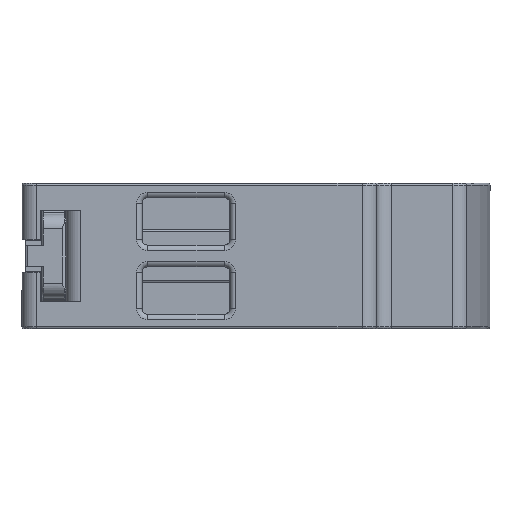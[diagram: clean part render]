
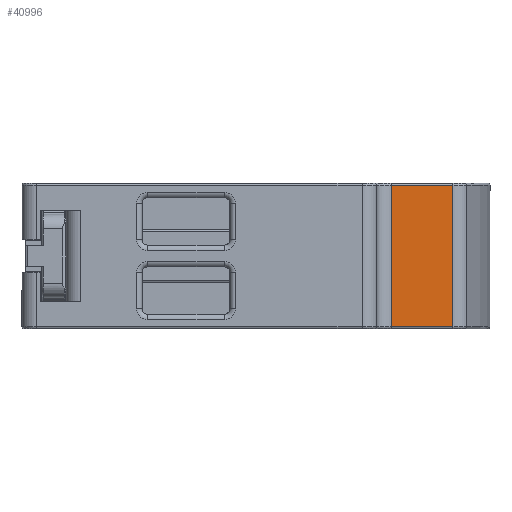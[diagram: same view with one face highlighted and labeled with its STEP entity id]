
A CAD part, front view. The second image highlights one B-rep face of the part: STEP entity #40996.
In plain terms, the highlighted planar face has unit normal (0, -1, 0).
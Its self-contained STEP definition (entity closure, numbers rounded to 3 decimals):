
#2013 = CARTESIAN_POINT ( 'NONE',  ( -63.303, -21.367, -0.3 ) ) ;
#2076 = EDGE_LOOP ( 'NONE', ( #50110, #44638, #39730, #42893 ) ) ;
#6729 = EDGE_CURVE ( 'NONE', #49858, #42859, #11788, .T. ) ;
#7410 = VECTOR ( 'NONE', #58228, 1000. ) ;
#10583 = CARTESIAN_POINT ( 'NONE',  ( -63.303, -21.367, -19.2 ) ) ;
#11788 = LINE ( 'NONE', #2013, #24431 ) ;
#15367 = CARTESIAN_POINT ( 'NONE',  ( -54.868, -21.367, -19.2 ) ) ;
#19878 = CARTESIAN_POINT ( 'NONE',  ( -54.868, -21.367, -19.6 ) ) ;
#21755 = CARTESIAN_POINT ( 'NONE',  ( -54.868, -21.367, -19.6 ) ) ;
#22003 = CARTESIAN_POINT ( 'NONE',  ( -54.868, -21.367, -0.3 ) ) ;
#22583 = VECTOR ( 'NONE', #35901, 1000. ) ;
#24431 = VECTOR ( 'NONE', #31268, 1000. ) ;
#25416 = FACE_OUTER_BOUND ( 'NONE', #2076, .T. ) ;
#31268 = DIRECTION ( 'NONE',  ( -1., 0., 0. ) ) ;
#33537 = LINE ( 'NONE', #19878, #7410 ) ;
#33739 = CARTESIAN_POINT ( 'NONE',  ( -63.303, -21.367, -0.3 ) ) ;
#35901 = DIRECTION ( 'NONE',  ( 0., 0., 1. ) ) ;
#39730 = ORIENTED_EDGE ( 'NONE', *, *, #50490, .T. ) ;
#40996 = ADVANCED_FACE ( 'NONE', ( #25416 ), #54987, .F. ) ;
#41942 = VECTOR ( 'NONE', #62123, 1000. ) ;
#42859 = VERTEX_POINT ( 'NONE', #33739 ) ;
#42893 = ORIENTED_EDGE ( 'NONE', *, *, #6729, .T. ) ;
#44638 = ORIENTED_EDGE ( 'NONE', *, *, #45809, .T. ) ;
#45235 = DIRECTION ( 'NONE',  ( 1., 0., 0. ) ) ;
#45579 = DIRECTION ( 'NONE',  ( 0., 1., 0. ) ) ;
#45809 = EDGE_CURVE ( 'NONE', #60930, #56809, #33537, .T. ) ;
#45858 = AXIS2_PLACEMENT_3D ( 'NONE', #15367, #45579, #45235 ) ;
#46005 = LINE ( 'NONE', #10583, #22583 ) ;
#49858 = VERTEX_POINT ( 'NONE', #22003 ) ;
#50110 = ORIENTED_EDGE ( 'NONE', *, *, #58210, .F. ) ;
#50490 = EDGE_CURVE ( 'NONE', #56809, #49858, #55329, .T. ) ;
#54987 = PLANE ( 'NONE',  #45858 ) ;
#55329 = LINE ( 'NONE', #60829, #41942 ) ;
#56809 = VERTEX_POINT ( 'NONE', #21755 ) ;
#58210 = EDGE_CURVE ( 'NONE', #60930, #42859, #46005, .T. ) ;
#58228 = DIRECTION ( 'NONE',  ( 1., 0., 0. ) ) ;
#59922 = CARTESIAN_POINT ( 'NONE',  ( -63.303, -21.367, -19.6 ) ) ;
#60829 = CARTESIAN_POINT ( 'NONE',  ( -54.868, -21.367, -19.2 ) ) ;
#60930 = VERTEX_POINT ( 'NONE', #59922 ) ;
#62123 = DIRECTION ( 'NONE',  ( 0., 0., 1. ) ) ;
